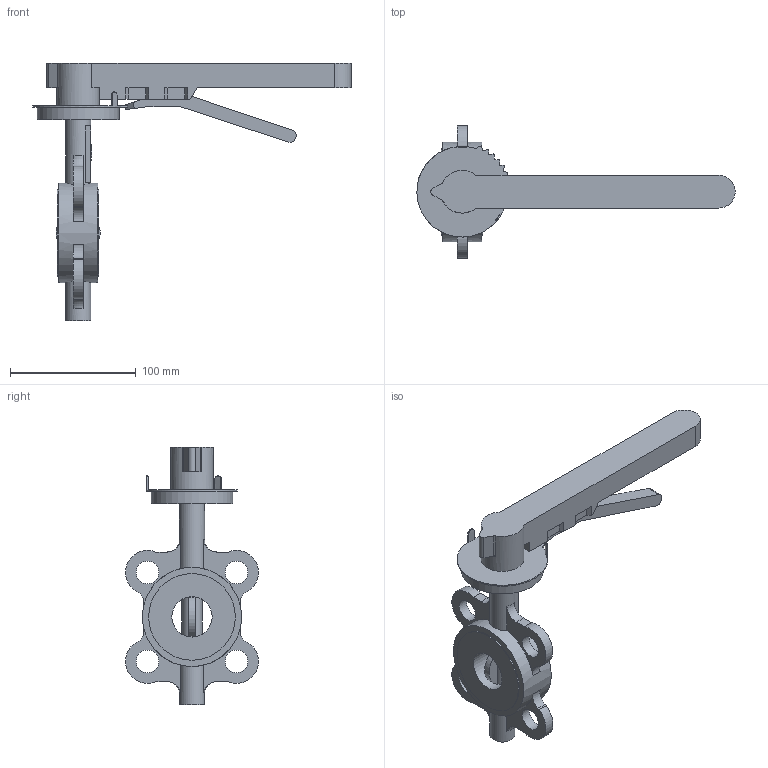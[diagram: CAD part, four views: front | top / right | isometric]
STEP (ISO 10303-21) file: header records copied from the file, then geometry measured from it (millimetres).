
FILE_DESCRIPTION(('STEP AP203'), '1');
FILE_NAME('Çàòâîð 017W.YS_DN32_ðóêîÿòü', '', ('UNSPECIFIED'), ('UNSPECIFIED'), 'ASCON STEP Converter 1.6', 'ASCON Math Kernel', '');
FILE_SCHEMA(('CONFIG_CONTROL_DESIGN'));
Length unit declared in the file: millimetre
Bounding box: 252.97 x 105.65 x 205 mm (x, y, z)
Volume: 392714.4 mm3; surface area: 76359 mm2
Topology: 1 solids, 1 shells, 187 faces, 499 edges, 331 vertices
Faces by surface type: plane 115, cylinder 68, torus 4
Full cylindrical faces by diameter (mm): 8 x4, 16 x1, 18 x4, 20 x2, 32 x1, 34 x1, 65 x1, 68.9 x2, 78.9 x1
Entity records: 8667 total; most frequent: CARTESIAN_POINT 2406, DIRECTION 985, ORIENTED_EDGE 964, EDGE_CURVE 482, AXIS2_PLACEMENT_3D 342, VERTEX_POINT 331, LINE 301, VECTOR 301
